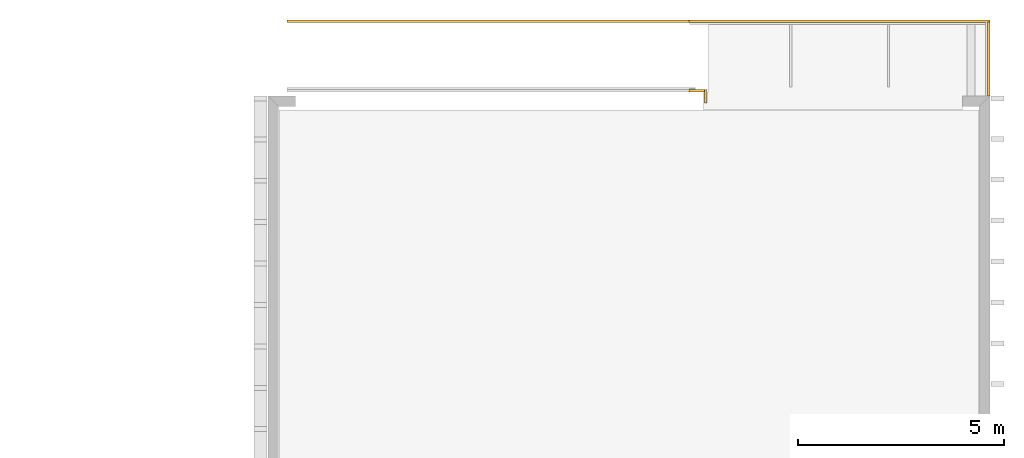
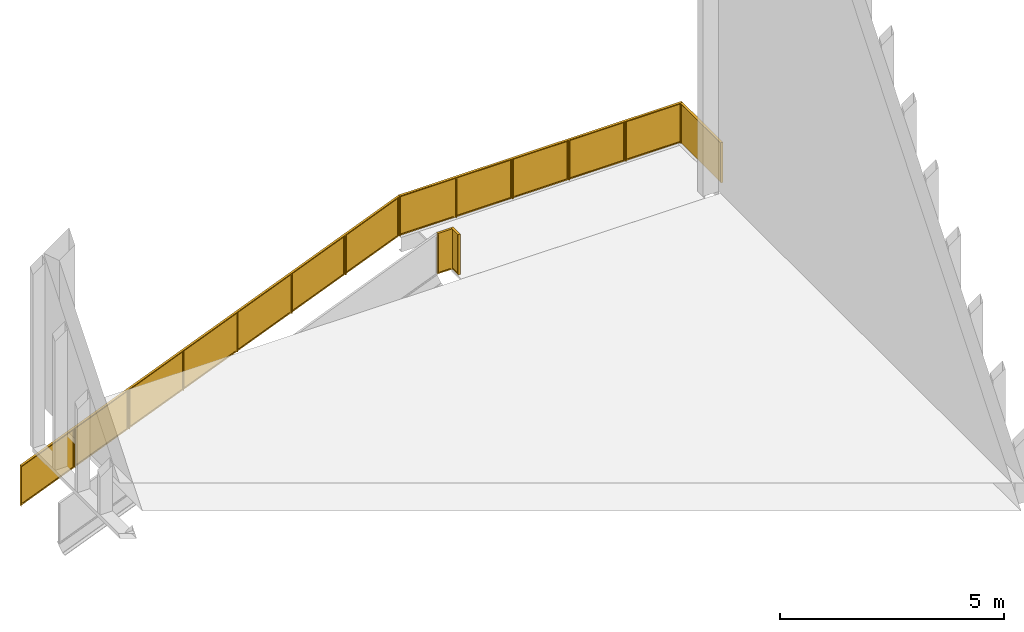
# One storey, part 60 of 62: 5 railings.
"""IFC2X3 building model written with IfcOpenShell, lengths in millimetres."""

from ifc_helpers import new_model, entity, si_unit, converted_unit, derived_unit, money_unit, direction, frame, origin_with_axes, place, context, subcontext, project, spatial, faceted_brep, material, material_list, type_object, element, save


model = new_model("IFC2X3")

# Units and contexts
model_context = context("Model", 3, precision=0.01, world=origin_with_axes(), true_north=direction((0.0, 1.0)))
body_context = subcontext(model_context, "Body", "Model", "MODEL_VIEW")
ifc_project = project(units=[si_unit("LENGTHUNIT", "METRE", prefix="MILLI"), si_unit("AREAUNIT", "SQUARE_METRE"), si_unit("VOLUMEUNIT", "CUBIC_METRE"), converted_unit("PLANEANGLEUNIT", "DEGREE", entity("IfcPlaneAngleMeasure", 0.0174532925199), si_unit("PLANEANGLEUNIT", "RADIAN"), dimensions=[0, 0, 0, 0, 0, 0, 0]), si_unit("SOLIDANGLEUNIT", "STERADIAN"), money_unit("EUR"), converted_unit("TIMEUNIT", "Year", entity("IfcTimeMeasure", 31556926.0), si_unit("TIMEUNIT", "SECOND"), dimensions=[0, 0, 1, 0, 0, 0, 0]), si_unit("MASSUNIT", "GRAM", prefix="KILO"), si_unit("THERMODYNAMICTEMPERATUREUNIT", "DEGREE_CELSIUS"), si_unit("LUMINOUSINTENSITYUNIT", "LUMEN"), si_unit("ENERGYUNIT", "JOULE", prefix="MEGA"), derived_unit("THERMALCONDUCTANCEUNIT", [(si_unit("POWERUNIT", "WATT"), 1), (si_unit("LENGTHUNIT", "METRE"), -1), (si_unit("THERMODYNAMICTEMPERATUREUNIT", "KELVIN"), -1)]), derived_unit("SPECIFICHEATCAPACITYUNIT", [(si_unit("ENERGYUNIT", "JOULE"), 1), (si_unit("MASSUNIT", "GRAM", prefix="KILO"), -1), (si_unit("THERMODYNAMICTEMPERATUREUNIT", "KELVIN"), -1)]), derived_unit("MASSDENSITYUNIT", [(si_unit("MASSUNIT", "GRAM", prefix="KILO"), 1), (si_unit("VOLUMEUNIT", "CUBIC_METRE"), -1)])], contexts=[model_context])

# Site, building, storey
site_placement = place(None, origin_with_axes())
site = spatial("IfcSite", under=ifc_project, at=site_placement, Name="Puškini 31, Narva", CompositionType="ELEMENT")
building_placement = place(site_placement, origin_with_axes())
building = spatial("IfcBuilding", under=site, at=building_placement, Name="Narva Riigigümnaasium", CompositionType="ELEMENT")
storey_placement = place(building_placement, frame((0.0, 0.0, 660.0), z_axis=(0.0, 0.0, 1.0), x_axis=(1.0, 0.0, 0.0)))
storey = spatial("IfcBuildingStorey", under=building, at=storey_placement, Name="2.korrus +0.66", CompositionType="ELEMENT", Elevation=660.0)

# Railings
ifc_material_1 = material(Name="ET-07_Teras - Roostevaba")
ifc_material_2 = material(Name="ET-03_Raud")
ifc_material_3 = material(Name="Alumiiniumprofiil")
ifc_material_4 = material(Name="Salto-võrk")
ifc_material_5 = material(Name="ET-06_Teras - Konstruktsioon")
ifc_material_list_1 = material_list([ifc_material_1, ifc_material_1, ifc_material_2, ifc_material_3, ifc_material_4, ifc_material_5, ifc_material_3, ifc_material_4, ifc_material_5, ifc_material_3, ifc_material_4, ifc_material_5, ifc_material_3, ifc_material_4, ifc_material_5, ifc_material_3, ifc_material_4])
railing_type = type_object("IfcRailingType", Name="Railing Type", PredefinedType="NOTDEFINED")
railing_1_placement = place(storey_placement, frame((53795.0000018, 256380.0, 0.0), z_axis=(0.0, 0.0, 1.0), x_axis=(1.0, 0.0, 0.0)))
element("IfcRailing", 1, at=railing_1_placement, inside=storey, type_object=railing_type, material=ifc_material_list_1, Name="Piire", PredefinedType="NOTDEFINED", context=body_context, shape_type="Brep", body=[
    faceted_brep([(652.99999993, 30.0, 0.0), (652.99999993, -30.0, 0.0), (652.99999993, -30.0, 1100.0), (652.99999993, 30.0, 1100.0), (662.99999993, 30.0, 0.0), (662.99999993, -30.0, 0.0), (662.99999993, -30.0, 1100.0), (662.99999993, 30.0, 1100.0)], [[[0, 1, 2, 3]], [[0, 4, 5, 1]], [[1, 5, 6, 2]], [[3, 2, 6, 7]], [[4, 0, 3, 7]], [[5, 4, 7, 6]]]),
    faceted_brep([(-6638.30447335, 30.0, 0.0), (-6638.30447335, -30.0, 0.0), (-6638.30447335, -30.0, 1100.0), (-6638.30447335, 30.0, 1100.0), (-6628.30447335, 30.0, 0.0), (-6628.30447335, -30.0, 0.0), (-6628.30447335, -30.0, 1100.0), (-6628.30447335, 30.0, 1100.0)], [[[0, 1, 2, 3]], [[0, 4, 5, 1]], [[1, 5, 6, 2]], [[3, 2, 6, 7]], [[4, 0, 3, 7]], [[5, 4, 7, 6]]]),
    faceted_brep([(657.99999993, 30.0, 1100.0), (657.99999993, 30.0, 1080.0), (-6633.30447335, 30.0, 1080.0), (-6633.30447335, 30.0, 1100.0), (657.99999993, -30.0, 1100.0), (657.99999993, -30.0, 1080.0), (-6633.30447335, -30.0, 1080.0), (-6633.30447335, -30.0, 1100.0)], [[[0, 1, 2, 3]], [[0, 4, 5, 1]], [[1, 5, 6, 2]], [[3, 2, 6, 7]], [[4, 0, 3, 7]], [[5, 4, 7, 6]]]),
    faceted_brep([(-790.260894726, 0.0, 0.0), (647.99999993, 0.0, 0.0), (647.99999993, 0.0, 1080.0), (-790.260894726, 0.0, 1080.0), (617.99999993, 0.0, 1050.0), (617.99999993, 0.0, 30.0), (-760.260894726, 0.0, 30.0), (-760.260894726, 0.0, 1050.0), (647.99999993, 30.0, 0.0), (-790.260894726, 30.0, 0.0), (647.99999993, 30.0, 1080.0), (-790.260894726, 30.0, 1080.0), (617.99999993, 30.0, 30.0), (617.99999993, 30.0, 1050.0), (-760.260894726, 30.0, 30.0), (-760.260894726, 30.0, 1050.0)], [[[0, 1, 2, 3], [4, 5, 6, 7]], [[8, 1, 0, 9]], [[10, 2, 1, 8]], [[3, 2, 10, 11]], [[0, 3, 11, 9]], [[12, 5, 4, 13]], [[14, 6, 5, 12]], [[7, 6, 14, 15]], [[4, 7, 15, 13]], [[10, 8, 9, 11], [14, 12, 13, 15]]]),
    faceted_brep([(-760.260894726, 12.5, 30.0), (617.99999993, 12.5, 30.0), (617.99999993, 12.5, 1050.0), (-760.260894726, 12.5, 1050.0), (617.99999993, 17.5, 30.0), (-760.260894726, 17.5, 30.0), (617.99999993, 17.5, 1050.0), (-760.260894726, 17.5, 1050.0)], [[[0, 1, 2, 3]], [[4, 1, 0, 5]], [[6, 2, 1, 4]], [[3, 2, 6, 7]], [[0, 3, 7, 5]], [[6, 4, 5, 7]]]),
    faceted_brep([(-810.260894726, 30.0, 0.0), (-810.260894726, -30.0, 0.0), (-810.260894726, -30.0, 1100.0), (-810.260894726, 30.0, 1100.0), (-790.260894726, 30.0, 0.0), (-790.260894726, -30.0, 0.0), (-790.260894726, -30.0, 1100.0), (-790.260894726, 30.0, 1100.0)], [[[0, 1, 2, 3]], [[0, 4, 5, 1]], [[1, 5, 6, 2]], [[3, 2, 6, 7]], [[4, 0, 3, 7]], [[5, 4, 7, 6]]]),
    faceted_brep([(-2248.52178938, 0.0, 0.0), (-810.260894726, 0.0, 0.0), (-810.260894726, 0.0, 1080.0), (-2248.52178938, 0.0, 1080.0), (-840.260894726, 0.0, 1050.0), (-840.260894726, 0.0, 30.0), (-2218.52178938, 0.0, 30.0), (-2218.52178938, 0.0, 1050.0), (-810.260894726, 30.0, 0.0), (-2248.52178938, 30.0, 0.0), (-810.260894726, 30.0, 1080.0), (-2248.52178938, 30.0, 1080.0), (-840.260894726, 30.0, 30.0), (-840.260894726, 30.0, 1050.0), (-2218.52178938, 30.0, 30.0), (-2218.52178938, 30.0, 1050.0)], [[[0, 1, 2, 3], [4, 5, 6, 7]], [[8, 1, 0, 9]], [[10, 2, 1, 8]], [[3, 2, 10, 11]], [[0, 3, 11, 9]], [[12, 5, 4, 13]], [[14, 6, 5, 12]], [[7, 6, 14, 15]], [[4, 7, 15, 13]], [[10, 8, 9, 11], [14, 12, 13, 15]]]),
    faceted_brep([(-2218.52178938, 12.5, 30.0), (-840.260894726, 12.5, 30.0), (-840.260894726, 12.5, 1050.0), (-2218.52178938, 12.5, 1050.0), (-840.260894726, 17.5, 30.0), (-2218.52178938, 17.5, 30.0), (-840.260894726, 17.5, 1050.0), (-2218.52178938, 17.5, 1050.0)], [[[0, 1, 2, 3]], [[4, 1, 0, 5]], [[6, 2, 1, 4]], [[3, 2, 6, 7]], [[0, 3, 7, 5]], [[6, 4, 5, 7]]]),
    faceted_brep([(-2268.52178938, 30.0, 0.0), (-2268.52178938, -30.0, 0.0), (-2268.52178938, -30.0, 1100.0), (-2268.52178938, 30.0, 1100.0), (-2248.52178938, 30.0, 0.0), (-2248.52178938, -30.0, 0.0), (-2248.52178938, -30.0, 1100.0), (-2248.52178938, 30.0, 1100.0)], [[[0, 1, 2, 3]], [[0, 4, 5, 1]], [[1, 5, 6, 2]], [[3, 2, 6, 7]], [[4, 0, 3, 7]], [[5, 4, 7, 6]]]),
    faceted_brep([(-3706.78268404, 0.0, 0.0), (-2268.52178938, 0.0, 0.0), (-2268.52178938, 0.0, 1080.0), (-3706.78268404, 0.0, 1080.0), (-2298.52178938, 0.0, 1050.0), (-2298.52178938, 0.0, 30.0), (-3676.78268404, 0.0, 30.0), (-3676.78268404, 0.0, 1050.0), (-2268.52178938, 30.0, 0.0), (-3706.78268404, 30.0, 0.0), (-2268.52178938, 30.0, 1080.0), (-3706.78268404, 30.0, 1080.0), (-2298.52178938, 30.0, 30.0), (-2298.52178938, 30.0, 1050.0), (-3676.78268404, 30.0, 30.0), (-3676.78268404, 30.0, 1050.0)], [[[0, 1, 2, 3], [4, 5, 6, 7]], [[8, 1, 0, 9]], [[10, 2, 1, 8]], [[3, 2, 10, 11]], [[0, 3, 11, 9]], [[12, 5, 4, 13]], [[14, 6, 5, 12]], [[7, 6, 14, 15]], [[4, 7, 15, 13]], [[10, 8, 9, 11], [14, 12, 13, 15]]]),
    faceted_brep([(-3676.78268404, 12.5, 30.0), (-2298.52178938, 12.5, 30.0), (-2298.52178938, 12.5, 1050.0), (-3676.78268404, 12.5, 1050.0), (-2298.52178938, 17.5, 30.0), (-3676.78268404, 17.5, 30.0), (-2298.52178938, 17.5, 1050.0), (-3676.78268404, 17.5, 1050.0)], [[[0, 1, 2, 3]], [[4, 1, 0, 5]], [[6, 2, 1, 4]], [[3, 2, 6, 7]], [[0, 3, 7, 5]], [[6, 4, 5, 7]]]),
    faceted_brep([(-3726.78268404, 30.0, 0.0), (-3726.78268404, -30.0, 0.0), (-3726.78268404, -30.0, 1100.0), (-3726.78268404, 30.0, 1100.0), (-3706.78268404, 30.0, 0.0), (-3706.78268404, -30.0, 0.0), (-3706.78268404, -30.0, 1100.0), (-3706.78268404, 30.0, 1100.0)], [[[0, 1, 2, 3]], [[0, 4, 5, 1]], [[1, 5, 6, 2]], [[3, 2, 6, 7]], [[4, 0, 3, 7]], [[5, 4, 7, 6]]]),
    faceted_brep([(-5165.0435787, 0.0, 0.0), (-3726.78268404, 0.0, 0.0), (-3726.78268404, 0.0, 1080.0), (-5165.0435787, 0.0, 1080.0), (-3756.78268404, 0.0, 1050.0), (-3756.78268404, 0.0, 30.0), (-5135.0435787, 0.0, 30.0), (-5135.0435787, 0.0, 1050.0), (-3726.78268404, 30.0, 0.0), (-5165.0435787, 30.0, 0.0), (-3726.78268404, 30.0, 1080.0), (-5165.0435787, 30.0, 1080.0), (-3756.78268404, 30.0, 30.0), (-3756.78268404, 30.0, 1050.0), (-5135.0435787, 30.0, 30.0), (-5135.0435787, 30.0, 1050.0)], [[[0, 1, 2, 3], [4, 5, 6, 7]], [[8, 1, 0, 9]], [[10, 2, 1, 8]], [[3, 2, 10, 11]], [[0, 3, 11, 9]], [[12, 5, 4, 13]], [[14, 6, 5, 12]], [[7, 6, 14, 15]], [[4, 7, 15, 13]], [[10, 8, 9, 11], [14, 12, 13, 15]]]),
    faceted_brep([(-5135.0435787, 12.5, 30.0), (-3756.78268404, 12.5, 30.0), (-3756.78268404, 12.5, 1050.0), (-5135.0435787, 12.5, 1050.0), (-3756.78268404, 17.5, 30.0), (-5135.0435787, 17.5, 30.0), (-3756.78268404, 17.5, 1050.0), (-5135.0435787, 17.5, 1050.0)], [[[0, 1, 2, 3]], [[4, 1, 0, 5]], [[6, 2, 1, 4]], [[3, 2, 6, 7]], [[0, 3, 7, 5]], [[6, 4, 5, 7]]]),
    faceted_brep([(-5185.0435787, 30.0, 0.0), (-5185.0435787, -30.0, 0.0), (-5185.0435787, -30.0, 1100.0), (-5185.0435787, 30.0, 1100.0), (-5165.0435787, 30.0, 0.0), (-5165.0435787, -30.0, 0.0), (-5165.0435787, -30.0, 1100.0), (-5165.0435787, 30.0, 1100.0)], [[[0, 1, 2, 3]], [[0, 4, 5, 1]], [[1, 5, 6, 2]], [[3, 2, 6, 7]], [[4, 0, 3, 7]], [[5, 4, 7, 6]]]),
    faceted_brep([(-6623.30447335, 0.0, 0.0), (-5185.0435787, 0.0, 0.0), (-5185.0435787, 0.0, 1080.0), (-6623.30447335, 0.0, 1080.0), (-5215.0435787, 0.0, 1050.0), (-5215.0435787, 0.0, 30.0), (-6593.30447335, 0.0, 30.0), (-6593.30447335, 0.0, 1050.0), (-5185.0435787, 30.0, 0.0), (-6623.30447335, 30.0, 0.0), (-5185.0435787, 30.0, 1080.0), (-6623.30447335, 30.0, 1080.0), (-5215.0435787, 30.0, 30.0), (-5215.0435787, 30.0, 1050.0), (-6593.30447335, 30.0, 30.0), (-6593.30447335, 30.0, 1050.0)], [[[0, 1, 2, 3], [4, 5, 6, 7]], [[8, 1, 0, 9]], [[10, 2, 1, 8]], [[3, 2, 10, 11]], [[0, 3, 11, 9]], [[12, 5, 4, 13]], [[14, 6, 5, 12]], [[7, 6, 14, 15]], [[4, 7, 15, 13]], [[10, 8, 9, 11], [14, 12, 13, 15]]]),
    faceted_brep([(-6593.30447335, 12.5, 30.0), (-5215.0435787, 12.5, 30.0), (-5215.0435787, 12.5, 1050.0), (-6593.30447335, 12.5, 1050.0), (-5215.0435787, 17.5, 30.0), (-6593.30447335, 17.5, 30.0), (-5215.0435787, 17.5, 1050.0), (-6593.30447335, 17.5, 1050.0)], [[[0, 1, 2, 3]], [[4, 1, 0, 5]], [[6, 2, 1, 4]], [[3, 2, 6, 7]], [[0, 3, 7, 5]], [[6, 4, 5, 7]]]),
])
ifc_material_list_2 = material_list([ifc_material_1, ifc_material_1, ifc_material_2, ifc_material_3, ifc_material_4, ifc_material_5, ifc_material_3, ifc_material_4, ifc_material_5, ifc_material_3, ifc_material_4, ifc_material_5, ifc_material_3, ifc_material_4, ifc_material_5, ifc_material_3, ifc_material_4, ifc_material_5, ifc_material_3, ifc_material_4, ifc_material_5, ifc_material_3, ifc_material_4])
railing_2_placement = place(storey_placement, frame((47205.0000002, 256380.0, -3943.14809538), z_axis=(0.0, 0.0, 1.0), x_axis=(1.0, 0.0, 0.0)))
element("IfcRailing", 2, at=railing_2_placement, inside=storey, type_object=railing_type, material=ifc_material_list_2, Name="Piire", PredefinedType="NOTDEFINED", context=body_context, shape_type="Brep", body=[
    faceted_brep([(-43.3044717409, 30.0, 3941.12839087), (-43.3044717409, -30.0, 3941.12839087), (-43.3044717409, -30.0, 5041.12839087), (-43.3044717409, 30.0, 5041.12839087), (-33.3044717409, 30.0, 3945.16779989), (-33.3044717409, -30.0, 3945.16779989), (-33.3044717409, -30.0, 5045.16779989), (-33.3044717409, 30.0, 5045.16779989)], [[[0, 1, 2, 3]], [[0, 4, 5, 1]], [[1, 5, 6, 2]], [[3, 2, 6, 7]], [[4, 0, 3, 7]], [[5, 4, 7, 6]]]),
    faceted_brep([(-9804.99999821, 30.0, -2.01970450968), (-9804.99999821, -30.0, -2.01970450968), (-9804.99999821, -30.0, 1097.98029549), (-9804.99999821, 30.0, 1097.98029549), (-9794.99999821, 30.0, 2.01970450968), (-9794.99999821, -30.0, 2.01970450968), (-9794.99999821, -30.0, 1102.01970451), (-9794.99999821, 30.0, 1102.01970451)], [[[0, 1, 2, 3]], [[0, 4, 5, 1]], [[1, 5, 6, 2]], [[3, 2, 6, 7]], [[4, 0, 3, 7]], [[5, 4, 7, 6]]]),
    faceted_brep([(-38.3044717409, 30.0, 5043.14809538), (-30.813700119, 30.0, 5024.60386877), (-9792.50922659, 30.0, 1081.45577339), (-9799.99999821, 30.0, 1100.0), (-38.3044717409, -30.0, 5043.14809538), (-30.813700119, -30.0, 5024.60386877), (-9792.50922659, -30.0, 1081.45577339), (-9799.99999821, -30.0, 1100.0)], [[[0, 1, 2, 3]], [[0, 4, 5, 1]], [[1, 5, 6, 2]], [[3, 2, 6, 7]], [[4, 0, 3, 7]], [[5, 4, 7, 6]]]),
    faceted_brep([(-1422.83240409, 0.0, 3383.88063363), (-48.3044717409, 0.0, 3939.10868636), (-48.3044717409, 0.0, 5019.10868636), (-1422.83240409, 0.0, 4463.88063363), (-78.3044717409, 0.0, 4974.63537582), (-78.3044717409, 0.0, 3959.34554278), (-1392.83240409, 0.0, 3428.35394417), (-1392.83240409, 0.0, 4443.64377721), (-1422.83240409, 30.0, 3383.88063363), (-48.3044717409, 30.0, 3939.10868636), (-48.3044717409, 30.0, 5019.10868636), (-1422.83240409, 30.0, 4463.88063363), (-78.3044717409, 30.0, 3959.34554278), (-78.3044717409, 30.0, 4974.63537582), (-1392.83240409, 30.0, 3428.35394417), (-1392.83240409, 30.0, 4443.64377721)], [[[0, 1, 2, 3], [4, 5, 6, 7]], [[1, 0, 8, 9]], [[10, 2, 1, 9]], [[11, 3, 2, 10]], [[0, 3, 11, 8]], [[12, 5, 4, 13]], [[6, 5, 12, 14]], [[7, 6, 14, 15]], [[13, 4, 7, 15]], [[10, 9, 8, 11], [14, 12, 13, 15]]]),
    faceted_brep([(-1392.83240409, 12.5, 3428.35394417), (-78.3044717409, 12.5, 3959.34554278), (-78.3044717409, 12.5, 4974.63537582), (-1392.83240409, 12.5, 4443.64377721), (-1392.83240409, 17.5, 3428.35394417), (-78.3044717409, 17.5, 3959.34554278), (-78.3044717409, 17.5, 4974.63537582), (-1392.83240409, 17.5, 4443.64377721)], [[[0, 1, 2, 3]], [[1, 0, 4, 5]], [[6, 2, 1, 5]], [[7, 3, 2, 6]], [[0, 3, 7, 4]], [[6, 5, 4, 7]]]),
    faceted_brep([(-1442.83240409, 30.0, 3375.80181559), (-1442.83240409, -30.0, 3375.80181559), (-1442.83240409, -30.0, 4475.80181559), (-1442.83240409, 30.0, 4475.80181559), (-1422.83240409, 30.0, 3383.88063363), (-1422.83240409, -30.0, 3383.88063363), (-1422.83240409, -30.0, 4483.88063363), (-1422.83240409, 30.0, 4483.88063363)], [[[0, 1, 2, 3]], [[0, 4, 5, 1]], [[1, 5, 6, 2]], [[3, 2, 6, 7]], [[4, 0, 3, 7]], [[5, 4, 7, 6]]]),
    faceted_brep([(-2817.36033645, 0.0, 2820.57376286), (-1442.83240409, 0.0, 3375.80181559), (-1442.83240409, 0.0, 4455.80181559), (-2817.36033645, 0.0, 3900.57376286), (-1472.83240409, 0.0, 4411.32850505), (-1472.83240409, 0.0, 3396.03867202), (-2787.36033645, 0.0, 2865.0470734), (-2787.36033645, 0.0, 3880.33690644), (-2817.36033645, 30.0, 2820.57376286), (-1442.83240409, 30.0, 3375.80181559), (-1442.83240409, 30.0, 4455.80181559), (-2817.36033645, 30.0, 3900.57376286), (-1472.83240409, 30.0, 3396.03867202), (-1472.83240409, 30.0, 4411.32850505), (-2787.36033645, 30.0, 2865.0470734), (-2787.36033645, 30.0, 3880.33690644)], [[[0, 1, 2, 3], [4, 5, 6, 7]], [[1, 0, 8, 9]], [[10, 2, 1, 9]], [[11, 3, 2, 10]], [[0, 3, 11, 8]], [[12, 5, 4, 13]], [[6, 5, 12, 14]], [[7, 6, 14, 15]], [[13, 4, 7, 15]], [[10, 9, 8, 11], [14, 12, 13, 15]]]),
    faceted_brep([(-2787.36033645, 12.5, 2865.0470734), (-1472.83240409, 12.5, 3396.03867202), (-1472.83240409, 12.5, 4411.32850505), (-2787.36033645, 12.5, 3880.33690644), (-2787.36033645, 17.5, 2865.0470734), (-1472.83240409, 17.5, 3396.03867202), (-1472.83240409, 17.5, 4411.32850505), (-2787.36033645, 17.5, 3880.33690644)], [[[0, 1, 2, 3]], [[1, 0, 4, 5]], [[6, 2, 1, 5]], [[7, 3, 2, 6]], [[0, 3, 7, 4]], [[6, 5, 4, 7]]]),
    faceted_brep([(-2837.36033645, 30.0, 2812.49494482), (-2837.36033645, -30.0, 2812.49494482), (-2837.36033645, -30.0, 3912.49494482), (-2837.36033645, 30.0, 3912.49494482), (-2817.36033645, 30.0, 2820.57376286), (-2817.36033645, -30.0, 2820.57376286), (-2817.36033645, -30.0, 3920.57376286), (-2817.36033645, 30.0, 3920.57376286)], [[[0, 1, 2, 3]], [[0, 4, 5, 1]], [[1, 5, 6, 2]], [[3, 2, 6, 7]], [[4, 0, 3, 7]], [[5, 4, 7, 6]]]),
    faceted_brep([(-4211.8882688, 0.0, 2257.26689209), (-2837.36033645, 0.0, 2812.49494482), (-2837.36033645, 0.0, 3892.49494482), (-4211.8882688, 0.0, 3337.26689209), (-2867.36033645, 0.0, 3848.02163429), (-2867.36033645, 0.0, 2832.73180125), (-4181.8882688, 0.0, 2301.74020263), (-4181.8882688, 0.0, 3317.03003567), (-4211.8882688, 30.0, 2257.26689209), (-2837.36033645, 30.0, 2812.49494482), (-2837.36033645, 30.0, 3892.49494482), (-4211.8882688, 30.0, 3337.26689209), (-2867.36033645, 30.0, 2832.73180125), (-2867.36033645, 30.0, 3848.02163429), (-4181.8882688, 30.0, 2301.74020263), (-4181.8882688, 30.0, 3317.03003567)], [[[0, 1, 2, 3], [4, 5, 6, 7]], [[1, 0, 8, 9]], [[10, 2, 1, 9]], [[11, 3, 2, 10]], [[0, 3, 11, 8]], [[12, 5, 4, 13]], [[6, 5, 12, 14]], [[7, 6, 14, 15]], [[13, 4, 7, 15]], [[10, 9, 8, 11], [14, 12, 13, 15]]]),
    faceted_brep([(-4181.8882688, 12.5, 2301.74020263), (-2867.36033645, 12.5, 2832.73180125), (-2867.36033645, 12.5, 3848.02163429), (-4181.8882688, 12.5, 3317.03003567), (-4181.8882688, 17.5, 2301.74020263), (-2867.36033645, 17.5, 2832.73180125), (-2867.36033645, 17.5, 3848.02163429), (-4181.8882688, 17.5, 3317.03003567)], [[[0, 1, 2, 3]], [[1, 0, 4, 5]], [[6, 2, 1, 5]], [[7, 3, 2, 6]], [[0, 3, 7, 4]], [[6, 5, 4, 7]]]),
    faceted_brep([(-4231.8882688, 30.0, 2249.18807406), (-4231.8882688, -30.0, 2249.18807406), (-4231.8882688, -30.0, 3349.18807406), (-4231.8882688, 30.0, 3349.18807406), (-4211.8882688, 30.0, 2257.26689209), (-4211.8882688, -30.0, 2257.26689209), (-4211.8882688, -30.0, 3357.26689209), (-4211.8882688, 30.0, 3357.26689209)], [[[0, 1, 2, 3]], [[0, 4, 5, 1]], [[1, 5, 6, 2]], [[3, 2, 6, 7]], [[4, 0, 3, 7]], [[5, 4, 7, 6]]]),
    faceted_brep([(-5606.41620115, 0.0, 1693.96002133), (-4231.8882688, 0.0, 2249.18807406), (-4231.8882688, 0.0, 3329.18807406), (-5606.41620115, 0.0, 2773.96002133), (-4261.8882688, 0.0, 3284.71476352), (-4261.8882688, 0.0, 2269.42493048), (-5576.41620115, 0.0, 1738.43333186), (-5576.41620115, 0.0, 2753.7231649), (-5606.41620115, 30.0, 1693.96002133), (-4231.8882688, 30.0, 2249.18807406), (-4231.8882688, 30.0, 3329.18807406), (-5606.41620115, 30.0, 2773.96002133), (-4261.8882688, 30.0, 2269.42493048), (-4261.8882688, 30.0, 3284.71476352), (-5576.41620115, 30.0, 1738.43333186), (-5576.41620115, 30.0, 2753.7231649)], [[[0, 1, 2, 3], [4, 5, 6, 7]], [[1, 0, 8, 9]], [[10, 2, 1, 9]], [[11, 3, 2, 10]], [[0, 3, 11, 8]], [[12, 5, 4, 13]], [[6, 5, 12, 14]], [[7, 6, 14, 15]], [[13, 4, 7, 15]], [[10, 9, 8, 11], [14, 12, 13, 15]]]),
    faceted_brep([(-5576.41620115, 12.5, 1738.43333186), (-4261.8882688, 12.5, 2269.42493048), (-4261.8882688, 12.5, 3284.71476352), (-5576.41620115, 12.5, 2753.7231649), (-5576.41620115, 17.5, 1738.43333186), (-4261.8882688, 17.5, 2269.42493048), (-4261.8882688, 17.5, 3284.71476352), (-5576.41620115, 17.5, 2753.7231649)], [[[0, 1, 2, 3]], [[1, 0, 4, 5]], [[6, 2, 1, 5]], [[7, 3, 2, 6]], [[0, 3, 7, 4]], [[6, 5, 4, 7]]]),
    faceted_brep([(-5626.41620115, 30.0, 1685.88120329), (-5626.41620115, -30.0, 1685.88120329), (-5626.41620115, -30.0, 2785.88120329), (-5626.41620115, 30.0, 2785.88120329), (-5606.41620115, 30.0, 1693.96002133), (-5606.41620115, -30.0, 1693.96002133), (-5606.41620115, -30.0, 2793.96002133), (-5606.41620115, 30.0, 2793.96002133)], [[[0, 1, 2, 3]], [[0, 4, 5, 1]], [[1, 5, 6, 2]], [[3, 2, 6, 7]], [[4, 0, 3, 7]], [[5, 4, 7, 6]]]),
    faceted_brep([(-7000.9441335, 0.0, 1130.65315056), (-5626.41620115, 0.0, 1685.88120329), (-5626.41620115, 0.0, 2765.88120329), (-7000.9441335, 0.0, 2210.65315056), (-5656.41620115, 0.0, 2721.40789275), (-5656.41620115, 0.0, 1706.11805971), (-6970.9441335, 0.0, 1175.1264611), (-6970.9441335, 0.0, 2190.41629413), (-7000.9441335, 30.0, 1130.65315056), (-5626.41620115, 30.0, 1685.88120329), (-5626.41620115, 30.0, 2765.88120329), (-7000.9441335, 30.0, 2210.65315056), (-5656.41620115, 30.0, 1706.11805971), (-5656.41620115, 30.0, 2721.40789275), (-6970.9441335, 30.0, 1175.1264611), (-6970.9441335, 30.0, 2190.41629413)], [[[0, 1, 2, 3], [4, 5, 6, 7]], [[1, 0, 8, 9]], [[10, 2, 1, 9]], [[11, 3, 2, 10]], [[0, 3, 11, 8]], [[12, 5, 4, 13]], [[6, 5, 12, 14]], [[7, 6, 14, 15]], [[13, 4, 7, 15]], [[10, 9, 8, 11], [14, 12, 13, 15]]]),
    faceted_brep([(-6970.9441335, 12.5, 1175.1264611), (-5656.41620115, 12.5, 1706.11805971), (-5656.41620115, 12.5, 2721.40789275), (-6970.9441335, 12.5, 2190.41629413), (-6970.9441335, 17.5, 1175.1264611), (-5656.41620115, 17.5, 1706.11805971), (-5656.41620115, 17.5, 2721.40789275), (-6970.9441335, 17.5, 2190.41629413)], [[[0, 1, 2, 3]], [[1, 0, 4, 5]], [[6, 2, 1, 5]], [[7, 3, 2, 6]], [[0, 3, 7, 4]], [[6, 5, 4, 7]]]),
    faceted_brep([(-7020.9441335, 30.0, 1122.57433252), (-7020.9441335, -30.0, 1122.57433252), (-7020.9441335, -30.0, 2222.57433252), (-7020.9441335, 30.0, 2222.57433252), (-7000.9441335, 30.0, 1130.65315056), (-7000.9441335, -30.0, 1130.65315056), (-7000.9441335, -30.0, 2230.65315056), (-7000.9441335, 30.0, 2230.65315056)], [[[0, 1, 2, 3]], [[0, 4, 5, 1]], [[1, 5, 6, 2]], [[3, 2, 6, 7]], [[4, 0, 3, 7]], [[5, 4, 7, 6]]]),
    faceted_brep([(-8395.47206586, 0.0, 567.346279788), (-7020.9441335, 0.0, 1122.57433252), (-7020.9441335, 0.0, 2202.57433252), (-8395.47206586, 0.0, 1647.34627979), (-7050.9441335, 0.0, 2158.10102198), (-7050.9441335, 0.0, 1142.81118894), (-8365.47206586, 0.0, 611.819590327), (-8365.47206586, 0.0, 1627.10942337), (-8395.47206586, 30.0, 567.346279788), (-7020.9441335, 30.0, 1122.57433252), (-7020.9441335, 30.0, 2202.57433252), (-8395.47206586, 30.0, 1647.34627979), (-7050.9441335, 30.0, 1142.81118894), (-7050.9441335, 30.0, 2158.10102198), (-8365.47206586, 30.0, 611.819590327), (-8365.47206586, 30.0, 1627.10942337)], [[[0, 1, 2, 3], [4, 5, 6, 7]], [[1, 0, 8, 9]], [[10, 2, 1, 9]], [[11, 3, 2, 10]], [[0, 3, 11, 8]], [[12, 5, 4, 13]], [[6, 5, 12, 14]], [[7, 6, 14, 15]], [[13, 4, 7, 15]], [[10, 9, 8, 11], [14, 12, 13, 15]]]),
    faceted_brep([(-8365.47206586, 12.5, 611.819590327), (-7050.9441335, 12.5, 1142.81118894), (-7050.9441335, 12.5, 2158.10102198), (-8365.47206586, 12.5, 1627.10942337), (-8365.47206586, 17.5, 611.819590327), (-7050.9441335, 17.5, 1142.81118894), (-7050.9441335, 17.5, 2158.10102198), (-8365.47206586, 17.5, 1627.10942337)], [[[0, 1, 2, 3]], [[1, 0, 4, 5]], [[6, 2, 1, 5]], [[7, 3, 2, 6]], [[0, 3, 7, 4]], [[6, 5, 4, 7]]]),
    faceted_brep([(-8415.47206586, 30.0, 559.267461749), (-8415.47206586, -30.0, 559.267461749), (-8415.47206586, -30.0, 1659.26746175), (-8415.47206586, 30.0, 1659.26746175), (-8395.47206586, 30.0, 567.346279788), (-8395.47206586, -30.0, 567.346279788), (-8395.47206586, -30.0, 1667.34627979), (-8395.47206586, 30.0, 1667.34627979)], [[[0, 1, 2, 3]], [[0, 4, 5, 1]], [[1, 5, 6, 2]], [[3, 2, 6, 7]], [[4, 0, 3, 7]], [[5, 4, 7, 6]]]),
    faceted_brep([(-9789.99999821, 0.0, 4.03940901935), (-8415.47206586, 0.0, 559.267461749), (-8415.47206586, 0.0, 1639.26746175), (-9789.99999821, 0.0, 1084.03940902), (-8445.47206586, 0.0, 1594.79415121), (-8445.47206586, 0.0, 579.504318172), (-9759.99999821, 0.0, 48.5127195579), (-9759.99999821, 0.0, 1063.8025526), (-9789.99999821, 30.0, 4.03940901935), (-8415.47206586, 30.0, 559.267461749), (-8415.47206586, 30.0, 1639.26746175), (-9789.99999821, 30.0, 1084.03940902), (-8445.47206586, 30.0, 579.504318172), (-8445.47206586, 30.0, 1594.79415121), (-9759.99999821, 30.0, 48.5127195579), (-9759.99999821, 30.0, 1063.8025526)], [[[0, 1, 2, 3], [4, 5, 6, 7]], [[1, 0, 8, 9]], [[10, 2, 1, 9]], [[11, 3, 2, 10]], [[0, 3, 11, 8]], [[12, 5, 4, 13]], [[6, 5, 12, 14]], [[7, 6, 14, 15]], [[13, 4, 7, 15]], [[10, 9, 8, 11], [14, 12, 13, 15]]]),
    faceted_brep([(-9759.99999821, 12.5, 48.5127195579), (-8445.47206586, 12.5, 579.504318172), (-8445.47206586, 12.5, 1594.79415121), (-9759.99999821, 12.5, 1063.8025526), (-9759.99999821, 17.5, 48.5127195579), (-8445.47206586, 17.5, 579.504318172), (-8445.47206586, 17.5, 1594.79415121), (-9759.99999821, 17.5, 1063.8025526)], [[[0, 1, 2, 3]], [[1, 0, 4, 5]], [[6, 2, 1, 5]], [[7, 3, 2, 6]], [[0, 3, 7, 4]], [[6, 5, 4, 7]]]),
])
ifc_material_6 = material(Name="ET-04_Alumiinium")
ifc_material_list_3 = material_list([ifc_material_1, ifc_material_1, ifc_material_2, ifc_material_6, ifc_material_4])
railing_3_placement = place(storey_placement, frame((54428.1291, 254568.805854, 0.0), z_axis=(0.0, 0.0, 1.0), x_axis=(1.0, 0.0, 0.0)))
element("IfcRailing", 3, at=railing_3_placement, inside=storey, type_object=railing_type, material=ifc_material_list_3, Name="G-VTR-01 piire", PredefinedType="NOTDEFINED", context=body_context, shape_type="Brep", body=[
    faceted_brep([(30.0, 5.0, 0.0), (-30.0, 5.0, 0.0), (-30.0, 4.99999999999, 1100.0), (30.0, 4.99999999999, 1100.0), (30.0, -5.0, 0.0), (-30.0, -5.0, 0.0), (-30.0, -5.00000000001, 1100.0), (30.0, -5.00000000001, 1100.0)], [[[0, 1, 2, 3]], [[0, 4, 5, 1]], [[1, 5, 6, 2]], [[3, 2, 6, 7]], [[4, 0, 3, 7]], [[5, 4, 7, 6]]]),
    faceted_brep([(30.0, 1791.17789427, 0.0), (-30.0, 1791.17789427, 0.0), (-30.0, 1791.17789427, 1100.0), (30.0, 1791.17789427, 1100.0), (30.0, 1781.17789427, 0.0), (-30.0, 1781.17789427, 0.0), (-30.0, 1781.17789427, 1100.0), (30.0, 1781.17789427, 1100.0)], [[[0, 1, 2, 3]], [[0, 4, 5, 1]], [[1, 5, 6, 2]], [[3, 2, 6, 7]], [[4, 0, 3, 7]], [[5, 4, 7, 6]]]),
    faceted_brep([(30.0, 0.0, 1100.0), (30.0, 0.0, 1090.0), (30.0, 1786.17789427, 1090.0), (30.0, 1786.17789427, 1100.0), (-30.0, 0.0, 1100.0), (-30.0, 0.0, 1090.0), (-30.0, 1786.17789427, 1090.0), (-30.0, 1786.17789427, 1100.0)], [[[0, 1, 2, 3]], [[0, 4, 5, 1]], [[1, 5, 6, 2]], [[3, 2, 6, 7]], [[4, 0, 3, 7]], [[5, 4, 7, 6]]]),
    faceted_brep([(-10.0, 1786.17789427, 0.0), (-10.0, 0.0, 0.0), (-10.0, 0.0, 1100.0), (-10.0, 1786.17789427, 1100.0), (-10.0, 20.0, 1080.0), (-10.0, 20.0, 20.0), (-10.0, 1766.17789427, 20.0), (-10.0, 1766.17789427, 1080.0), (10.0, 0.0, 0.0), (10.0, 1786.17789427, 0.0), (10.0, 0.0, 1100.0), (10.0, 1786.17789427, 1100.0), (10.0, 20.0, 20.0), (10.0, 20.0, 1080.0), (10.0, 1766.17789427, 20.0), (10.0, 1766.17789427, 1080.0)], [[[0, 1, 2, 3], [4, 5, 6, 7]], [[8, 1, 0, 9]], [[10, 2, 1, 8]], [[3, 2, 10, 11]], [[0, 3, 11, 9]], [[12, 5, 4, 13]], [[14, 6, 5, 12]], [[7, 6, 14, 15]], [[4, 7, 15, 13]], [[10, 8, 9, 11], [14, 12, 13, 15]]]),
    faceted_brep([(-10.0, 1766.17789427, 20.0), (-10.0, 20.0, 20.0), (-10.0, 20.0, 1080.0), (-10.0, 1766.17789427, 1080.0), (10.0, 20.0, 20.0), (10.0, 1766.17789427, 20.0), (10.0, 20.0, 1080.0), (10.0, 1766.17789427, 1080.0)], [[[0, 1, 2, 3]], [[4, 1, 0, 5]], [[6, 2, 1, 4]], [[3, 2, 6, 7]], [[0, 3, 7, 5]], [[6, 4, 5, 7]]]),
])
ifc_material_list_4 = material_list([ifc_material_1, ifc_material_1, ifc_material_2, ifc_material_3, ifc_material_4])
railing_4_placement = place(storey_placement, frame((47166.6955285, 254690.0, 0.0), z_axis=(0.0, 0.0, 1.0), x_axis=(0.0, 1.0, 0.0)))
element("IfcRailing", 4, at=railing_4_placement, inside=storey, type_object=railing_type, material=ifc_material_list_4, Name="Piire", PredefinedType="NOTDEFINED", context=body_context, shape_type="Brep", body=[
    faceted_brep([(-30.0, -5.0, 0.0), (30.0, -5.0, 0.0), (30.0, -5.0, 1100.0), (-30.0, -5.0, 1100.0), (-30.0, 5.0, 0.0), (30.0, 5.0, 0.0), (30.0, 5.00000000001, 1100.0), (-30.0, 5.00000000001, 1100.0)], [[[0, 1, 2, 3]], [[0, 4, 5, 1]], [[1, 5, 6, 2]], [[3, 2, 6, 7]], [[4, 0, 3, 7]], [[5, 4, 7, 6]]]),
    faceted_brep([(-30.0, -374.453309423, 0.0), (30.0, -374.453309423, 0.0), (30.0, -374.453309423, 1100.0), (-30.0, -374.453309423, 1100.0), (-30.0, -364.453309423, 0.0), (30.0, -364.453309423, 0.0), (30.0, -364.453309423, 1100.0), (-30.0, -364.453309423, 1100.0)], [[[0, 1, 2, 3]], [[0, 4, 5, 1]], [[1, 5, 6, 2]], [[3, 2, 6, 7]], [[4, 0, 3, 7]], [[5, 4, 7, 6]]]),
    faceted_brep([(-30.0, 0.0, 1100.0), (-30.0, 0.0, 1080.0), (-30.0, -369.453309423, 1080.0), (-30.0, -369.453309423, 1100.0), (30.0, 0.0, 1100.0), (30.0, 0.0, 1080.0), (30.0, -369.453309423, 1080.0), (30.0, -369.453309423, 1100.0)], [[[0, 1, 2, 3]], [[0, 4, 5, 1]], [[1, 5, 6, 2]], [[3, 2, 6, 7]], [[4, 0, 3, 7]], [[5, 4, 7, 6]]]),
    faceted_brep([(0.0, -359.453309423, 0.0), (0.0, -10.0, 0.0), (0.0, -9.99999999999, 1080.0), (0.0, -359.453309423, 1080.0), (0.0, -40.0, 1050.0), (0.0, -40.0, 30.0), (0.0, -329.453309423, 30.0), (0.0, -329.453309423, 1050.0), (-30.0, -10.0, 0.0), (-30.0, -359.453309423, 0.0), (-30.0, -9.99999999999, 1080.0), (-30.0, -359.453309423, 1080.0), (-30.0, -40.0, 30.0), (-30.0, -40.0, 1050.0), (-30.0, -329.453309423, 30.0), (-30.0, -329.453309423, 1050.0)], [[[0, 1, 2, 3], [4, 5, 6, 7]], [[8, 1, 0, 9]], [[10, 2, 1, 8]], [[3, 2, 10, 11]], [[0, 3, 11, 9]], [[12, 5, 4, 13]], [[14, 6, 5, 12]], [[7, 6, 14, 15]], [[4, 7, 15, 13]], [[10, 8, 9, 11], [14, 12, 13, 15]]]),
    faceted_brep([(-12.5, -329.453309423, 30.0), (-12.5, -40.0, 30.0), (-12.5, -40.0, 1050.0), (-12.5, -329.453309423, 1050.0), (-17.5, -40.0, 30.0), (-17.5, -329.453309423, 30.0), (-17.5, -40.0, 1050.0), (-17.5, -329.453309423, 1050.0)], [[[0, 1, 2, 3]], [[4, 1, 0, 5]], [[6, 2, 1, 4]], [[3, 2, 6, 7]], [[0, 3, 7, 5]], [[6, 4, 5, 7]]]),
])
railing_5_placement = place(storey_placement, frame((47566.2077157, 254715.0, 0.0), z_axis=(0.0, 0.0, 1.0), x_axis=(-1.0, 0.0, 0.0)))
element("IfcRailing", 5, at=railing_5_placement, inside=storey, type_object=railing_type, material=ifc_material_list_4, Name="Piire", PredefinedType="NOTDEFINED", context=body_context, shape_type="Brep", body=[
    faceted_brep([(30.0, 5.0, 0.0), (-30.0, 5.0, 0.0), (-30.0, 4.99999999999, 1100.0), (30.0, 4.99999999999, 1100.0), (30.0, -5.0, 0.0), (-30.0, -5.0, 0.0), (-30.0, -5.00000000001, 1100.0), (30.0, -5.00000000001, 1100.0)], [[[0, 1, 2, 3]], [[0, 4, 5, 1]], [[1, 5, 6, 2]], [[3, 2, 6, 7]], [[4, 0, 3, 7]], [[5, 4, 7, 6]]]),
    faceted_brep([(30.0, 314.0, 0.0), (-30.0, 314.0, 0.0), (-30.0, 314.0, 1100.0), (30.0, 314.0, 1100.0), (30.0, 304.0, 0.0), (-30.0, 304.0, 0.0), (-30.0, 304.0, 1100.0), (30.0, 304.0, 1100.0)], [[[0, 1, 2, 3]], [[0, 4, 5, 1]], [[1, 5, 6, 2]], [[3, 2, 6, 7]], [[4, 0, 3, 7]], [[5, 4, 7, 6]]]),
    faceted_brep([(30.0, 0.0, 1100.0), (30.0, 0.0, 1080.0), (30.0, 309.0, 1080.0), (30.0, 309.0, 1100.0), (-30.0, 0.0, 1100.0), (-30.0, 0.0, 1080.0), (-30.0, 309.0, 1080.0), (-30.0, 309.0, 1100.0)], [[[0, 1, 2, 3]], [[0, 4, 5, 1]], [[1, 5, 6, 2]], [[3, 2, 6, 7]], [[4, 0, 3, 7]], [[5, 4, 7, 6]]]),
    faceted_brep([(0.0, 299.0, 0.0), (0.0, 9.99999999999, 0.0), (0.0, 9.99999999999, 1080.0), (0.0, 299.0, 1080.0), (0.0, 40.0, 1050.0), (0.0, 40.0, 30.0), (0.0, 269.0, 30.0), (0.0, 269.0, 1050.0), (30.0, 9.99999999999, 0.0), (30.0, 299.0, 0.0), (30.0, 9.99999999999, 1080.0), (30.0, 299.0, 1080.0), (30.0, 40.0, 30.0), (30.0, 40.0, 1050.0), (30.0, 269.0, 30.0), (30.0, 269.0, 1050.0)], [[[0, 1, 2, 3], [4, 5, 6, 7]], [[8, 1, 0, 9]], [[10, 2, 1, 8]], [[3, 2, 10, 11]], [[0, 3, 11, 9]], [[12, 5, 4, 13]], [[14, 6, 5, 12]], [[7, 6, 14, 15]], [[4, 7, 15, 13]], [[10, 8, 9, 11], [14, 12, 13, 15]]]),
    faceted_brep([(12.5, 269.0, 30.0), (12.5, 40.0, 30.0), (12.5, 40.0, 1050.0), (12.5, 269.0, 1050.0), (17.5, 40.0, 30.0), (17.5, 269.0, 30.0), (17.5, 40.0, 1050.0), (17.5, 269.0, 1050.0)], [[[0, 1, 2, 3]], [[4, 1, 0, 5]], [[6, 2, 1, 4]], [[3, 2, 6, 7]], [[0, 3, 7, 5]], [[6, 4, 5, 7]]]),
])

save(model, "model.ifc")
